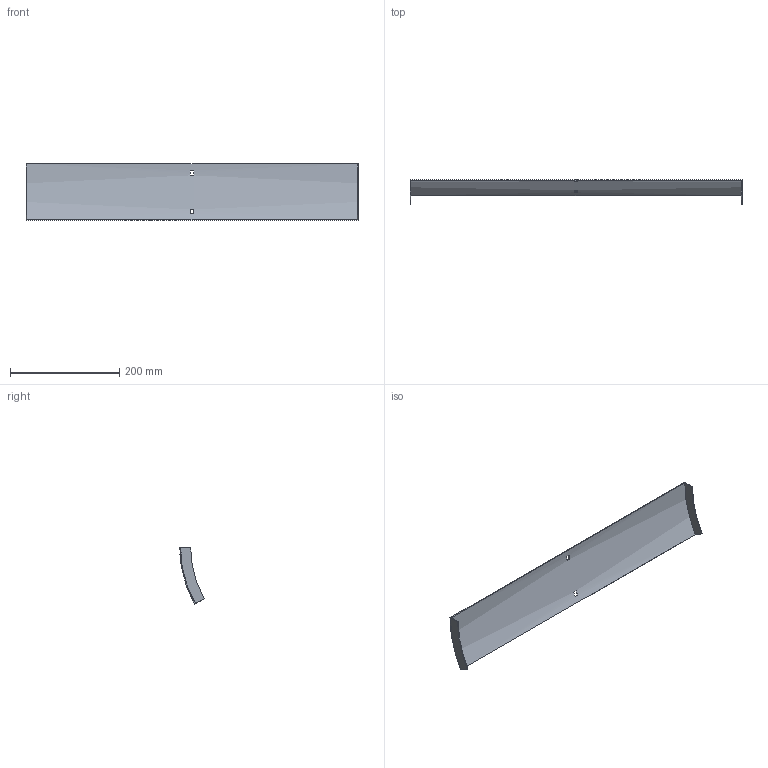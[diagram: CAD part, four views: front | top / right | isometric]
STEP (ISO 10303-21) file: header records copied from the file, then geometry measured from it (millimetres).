
FILE_DESCRIPTION (( 'STEP AP214' ), '1' );
FILE_NAME ('35N1D600.step', '2025-02-21T09:11:14', ( '' ), ( '' ), 'SwSTEP 2.0', 'SolidWorks 2023', '' );
FILE_SCHEMA (( 'AUTOMOTIVE_DESIGN' ));
Length unit declared in the file: millimetre
Products named in the file (1): 35N1D600
Bounding box: 607 x 44.85 x 102.75 mm (x, y, z)
Volume: 103095.1 mm3; surface area: 139778.1 mm2
Topology: 1 solids, 1 shells, 18 faces, 48 edges, 32 vertices
Faces by surface type: plane 14, cylinder 4
Entity records: 599 total; most frequent: DIRECTION 102, CARTESIAN_POINT 99, ORIENTED_EDGE 96, EDGE_CURVE 48, AXIS2_PLACEMENT_3D 35, VECTOR 32, LINE 32, VERTEX_POINT 32
